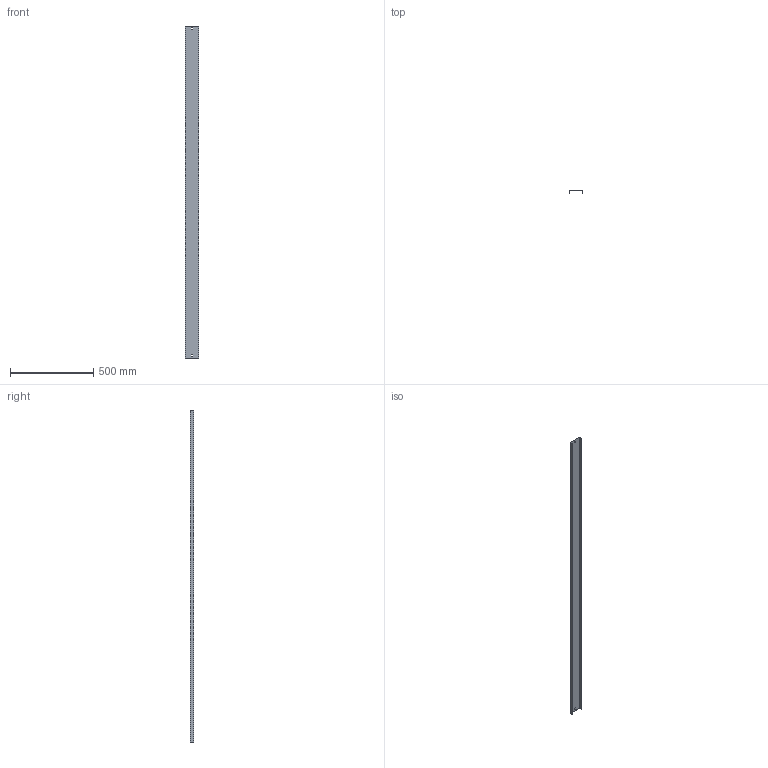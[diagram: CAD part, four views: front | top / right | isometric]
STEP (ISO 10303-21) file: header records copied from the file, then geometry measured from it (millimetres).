
FILE_DESCRIPTION (( 'STEP AP214' ), '1' );
FILE_NAME ('05G2R075.step', '2025-02-21T13:07:08', ( '' ), ( '' ), 'SwSTEP 2.0', 'SolidWorks 2023', '' );
FILE_SCHEMA (( 'AUTOMOTIVE_DESIGN' ));
Length unit declared in the file: millimetre
Products named in the file (1): 05G2R075
Bounding box: 82 x 20 x 2000 mm (x, y, z)
Volume: 356824.5 mm3; surface area: 482216 mm2
Topology: 1 solids, 1 shells, 18 faces, 48 edges, 32 vertices
Faces by surface type: plane 18
Entity records: 583 total; most frequent: CARTESIAN_POINT 99, ORIENTED_EDGE 96, DIRECTION 86, VECTOR 48, LINE 48, EDGE_CURVE 48, VERTEX_POINT 32, EDGE_LOOP 22
